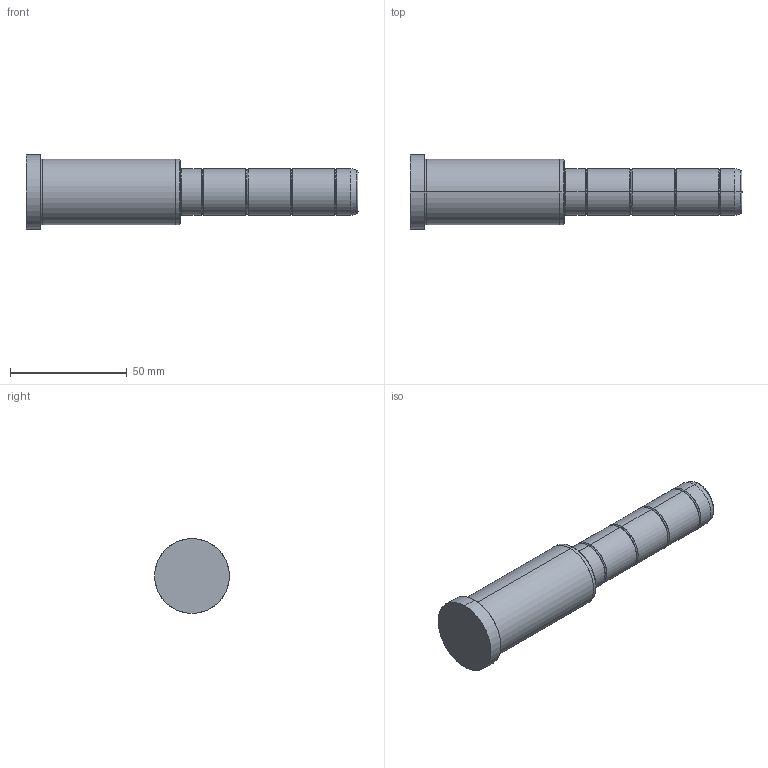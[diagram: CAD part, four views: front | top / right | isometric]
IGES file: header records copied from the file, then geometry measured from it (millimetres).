
Start section: SolidWorks IGES file using analytic representation for surfaces
Global section: file name: C:\Documents and Settings\kalite-mail\Desktop\IGS\D02\20\D02 - 20x66x76.IGS; native system: SolidWorks 2008; preprocessor: SolidWorks 2008; author: kalite-mail; date: 080616.163526; units: millimetre
Bounding box: 142 x 32 x 32 mm (x, y, z)
Surface area: 12298.6 mm2 (no closed solid volume)
Topology: 0 solids, 0 shells, 48 faces, 712 edges, 712 vertices
Faces by surface type: bspline 26, revolution 22
